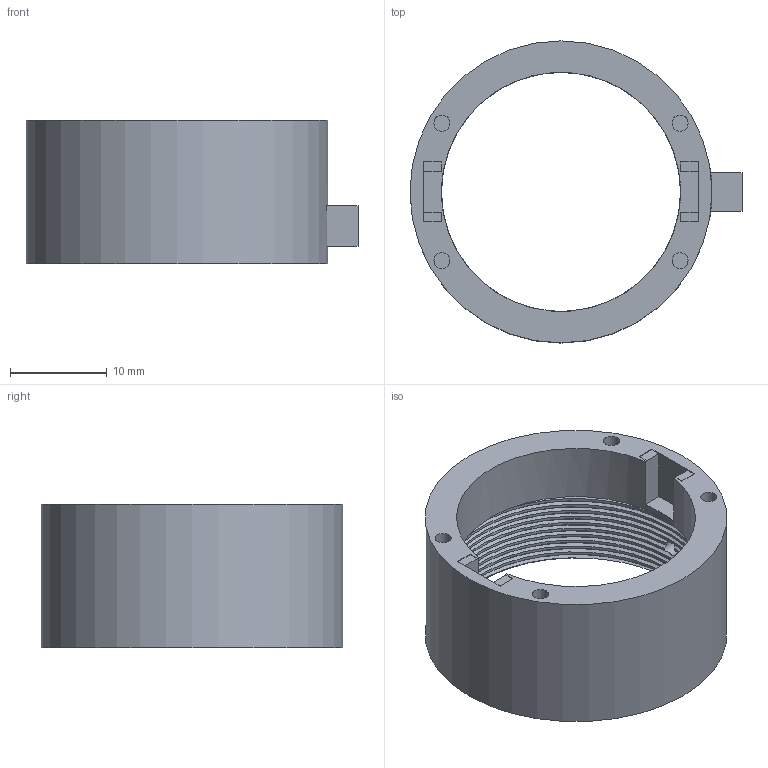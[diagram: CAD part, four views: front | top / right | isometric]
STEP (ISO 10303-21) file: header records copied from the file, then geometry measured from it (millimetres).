
FILE_DESCRIPTION(('Open CASCADE Model'),'2;1');
FILE_NAME('Open CASCADE Shape Model','2026-09-24T17:43:03',('Author'),( 'Open CASCADE'),'Open CASCADE STEP processor 7.8','Open CASCADE 7.8' ,'Unknown');
FILE_SCHEMA(('AUTOMOTIVE_DESIGN { 1 0 10303 214 1 1 1 1 }'));
Length unit declared in the file: millimetre
Products named in the file (1): Open CASCADE STEP translator 7.8 39
Bounding box: 34.3 x 31.2 x 14.8 mm (x, y, z)
Volume: 3100 mm3; surface area: 3803.6 mm2
Topology: 1 solids, 1 shells, 62 faces, 166 edges, 110 vertices
Faces by surface type: plane 33, cylinder 19, bspline 10
Full cylindrical faces by diameter (mm): 1.66 x5, 24.7 x1, 27.4 x8, 31.2 x1
Entity records: 12438 total; most frequent: CARTESIAN_POINT 9412, DIRECTION 444, ORIENTED_EDGE 332, PCURVE 332, DEFINITIONAL_REPRESENTATION 332, LINE 269, VECTOR 269, B_SPLINE_CURVE_WITH_KNOTS 183
